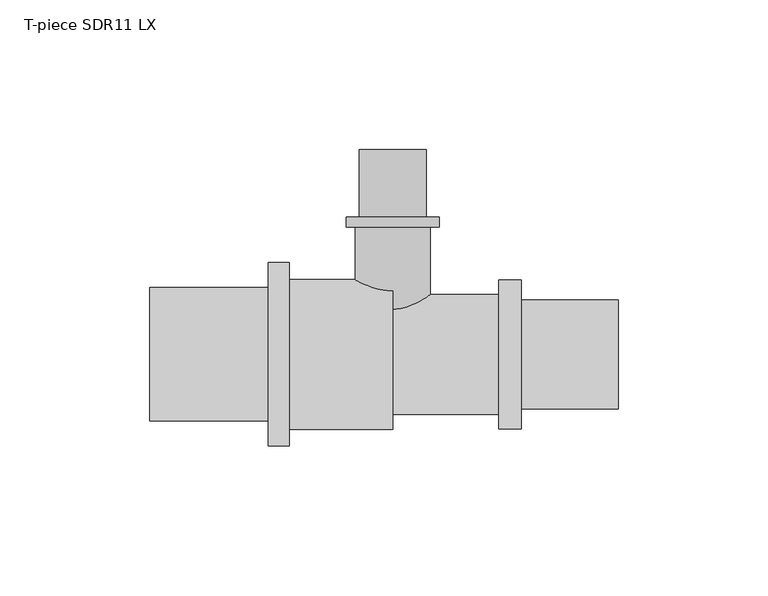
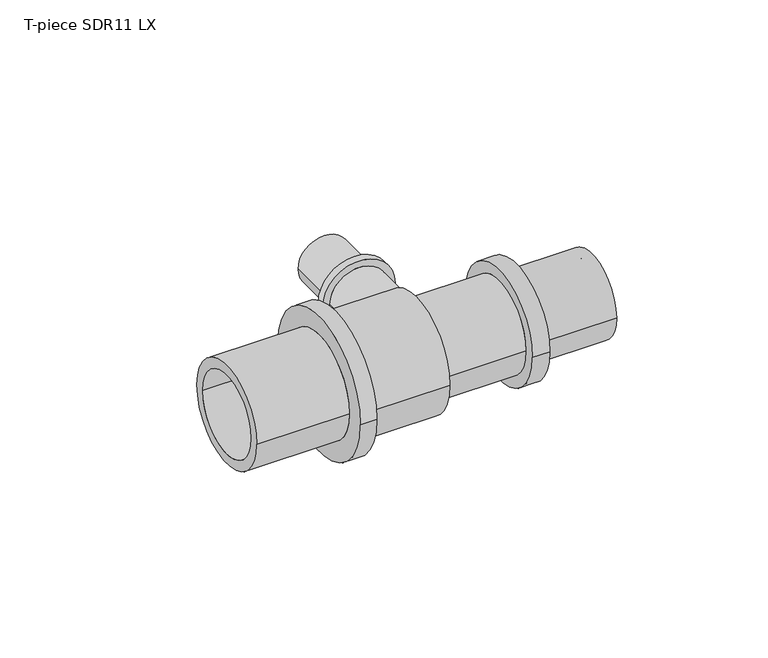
"""IFC4 building model written with IfcOpenShell, lengths in millimetres: pipe fitting geometry, T-piece SDR11 LX : T-piece LX SDR11 LX."""

from ifc_helpers import new_model, si_unit, point, frame, origin, place, context, project, spatial, polyline, circle_curve, ellipse_curve, trimmed, source, transform, mapped, element, save
from ifc_brep_helpers import plane_surface, cylinder_surface, revolved_surface, advanced_brep


def t_piece_sdr11_lx_75e13a52(model_context):
    return source(origin(), model_context, "Body", "AdvancedBrep", [
        advanced_brep(
        [(12.5, 0.9808737, 0.0), (-12.5, 0.9808737, 0.0), (-12.5, 42.5, 0.0), (12.5, 42.5, 0.0), (8.9, 68.5, 0.0), (-8.9, 68.5, 0.0), (-8.9, 0.0, 0.0), (8.9, 0.0, 0.0), (11.15, 45.9, 0.0), (-11.15, 45.9, 0.0), (-11.15, 68.5, 0.0), (11.15, 68.5, 0.0), (15.5, 42.5, 0.0), (-15.5, 42.5, 0.0), (-15.5, 45.9, 0.0), (15.5, 45.9, 0.0)],
        [
            (0, 1, circle_curve(frame((0.0, 0.9808737, 0.0), z_axis=(0.0, 1.0, 0.0), x_axis=(-1.0, 0.0, 0.0)), 12.5)),
            (1, 2),
            (2, 3, circle_curve(frame((0.0, 42.5, 0.0), z_axis=(0.0, -1.0, 0.0), x_axis=(-1.0, 0.0, 0.0)), 12.5)),
            (3, 0),
            (4, 5, circle_curve(frame((0.0, 68.5, 0.0), z_axis=(0.0, 1.0, 0.0), x_axis=(-1.0, 0.0, 0.0)), 8.9)),
            (5, 6),
            (6, 7, circle_curve(frame((0.0, 0.0, 0.0), z_axis=(0.0, -1.0, 0.0), x_axis=(-1.0, 0.0, 0.0)), 8.9)),
            (7, 4),
            (8, 9, circle_curve(frame((0.0, 45.9, 0.0), z_axis=(0.0, 1.0, 0.0), x_axis=(-1.0, 0.0, 0.0)), 11.15)),
            (9, 10),
            (10, 11, circle_curve(frame((0.0, 68.5, 0.0), z_axis=(0.0, -1.0, 0.0), x_axis=(-1.0, 0.0, 0.0)), 11.15)),
            (11, 8),
            (12, 13, circle_curve(frame((0.0, 42.5, 0.0), z_axis=(0.0, 1.0, 0.0), x_axis=(-1.0, 0.0, 0.0)), 15.5)),
            (13, 14),
            (14, 15, circle_curve(frame((0.0, 45.9, 0.0), z_axis=(0.0, -1.0, 0.0), x_axis=(-1.0, 0.0, 0.0)), 15.5)),
            (15, 12),
            (12, 13, circle_curve(frame((0.0, 42.5, 0.0), z_axis=(0.0, -1.0, 0.0), x_axis=(1.0, 0.0, 0.0)), 15.5)),
            (2, 3, circle_curve(frame((0.0, 42.5, 0.0), z_axis=(0.0, 1.0, 0.0), x_axis=(1.0, 0.0, 0.0)), 12.5)),
            (1, 0, circle_curve(frame((0.0, 0.9808737, 0.0), z_axis=(0.0, 1.0, 0.0), x_axis=(1.0, 0.0, 0.0)), 12.5)),
            (5, 4, circle_curve(frame((0.0, 68.5, 0.0), z_axis=(0.0, 1.0, 0.0), x_axis=(1.0, 0.0, 0.0)), 8.9)),
            (7, 6, circle_curve(frame((0.0, 0.0, 0.0), z_axis=(0.0, -1.0, 0.0), x_axis=(1.0, 0.0, 0.0)), 8.9)),
            (10, 11, circle_curve(frame((0.0, 68.5, 0.0), z_axis=(0.0, 1.0, 0.0), x_axis=(1.0, 0.0, 0.0)), 11.15)),
            (9, 8, circle_curve(frame((0.0, 45.9, 0.0), z_axis=(0.0, 1.0, 0.0), x_axis=(1.0, 0.0, 0.0)), 11.15)),
            (14, 15, circle_curve(frame((0.0, 45.9, 0.0), z_axis=(0.0, 1.0, 0.0), x_axis=(1.0, 0.0, 0.0)), 15.5)),
            (6, 1, circle_curve(frame((-4.1462802, 24.5438821, 0.0), z_axis=(0.0, 0.0, -1.0), x_axis=(0.0, -1.0, 0.0)), 25.0)),
            (0, 7, circle_curve(frame((4.1462802, 24.5438821, 0.0), z_axis=(0.0, 0.0, -1.0), x_axis=(0.0, -1.0, 0.0)), 25.0)),
        ],
        [
            cylinder_surface(frame((0.0, 0.0, 0.0), z_axis=(0.0, -1.0, 0.0), x_axis=(-1.0, 0.0, 0.0)), 12.5),
            revolved_surface(polyline([(-8.9, 0.0, 0.0), (-8.9, 68.5, 0.0)]), (0.0, 0.0, 0.0), (0.0, -1.0, 0.0)),
            cylinder_surface(frame((0.0, 0.0, 0.0), z_axis=(0.0, -1.0, 0.0), x_axis=(-1.0, 0.0, 0.0)), 11.15),
            cylinder_surface(frame((0.0, 0.0, 0.0), z_axis=(0.0, -1.0, 0.0), x_axis=(-1.0, 0.0, 0.0)), 15.5),
            plane_surface(frame((0.0, 42.5, 0.0), z_axis=(0.0, -1.0, 0.0), x_axis=(1.0, 0.0, 0.0))),
            cylinder_surface(frame((0.0, 0.0, 0.0), z_axis=(0.0, -1.0, 0.0), x_axis=(1.0, 0.0, 0.0)), 12.5),
            revolved_surface(polyline([(8.9, 0.0, 0.0), (8.9, 68.5, 0.0)]), (0.0, 0.0, 0.0), (0.0, -1.0, 0.0)),
            plane_surface(frame((0.0, 68.5, 0.0), z_axis=(0.0, 1.0, 0.0), x_axis=(1.0, 0.0, 0.0))),
            cylinder_surface(frame((0.0, 0.0, 0.0), z_axis=(0.0, -1.0, 0.0), x_axis=(1.0, 0.0, 0.0)), 11.15),
            plane_surface(frame((0.0, 45.9, 0.0), z_axis=(0.0, 1.0, 0.0), x_axis=(1.0, 0.0, 0.0))),
            cylinder_surface(frame((0.0, 0.0, 0.0), z_axis=(0.0, -1.0, 0.0), x_axis=(1.0, 0.0, 0.0)), 15.5),
            revolved_surface(trimmed(ellipse_curve(frame((-4.1462802, 24.5438821, 0.0), z_axis=(0.0, 0.0, 1.0), x_axis=(0.0, -1.0, 0.0)), 25.0, 25.0), [point((-12.5, 0.9808737, 0.0))], [point((-8.9, 0.0, 0.0))], True, "CARTESIAN"), (0.0, 0.0, 0.0), (0.0, -1.0, 0.0)),
            revolved_surface(trimmed(ellipse_curve(frame((4.1462802, 24.5438821, 0.0), z_axis=(0.0, 0.0, -1.0), x_axis=(0.0, -1.0, 0.0)), 25.0, 25.0), [point((12.5, 0.9808737, 0.0))], [point((8.9, 0.0, 0.0))], True, "CARTESIAN"), (0.0, 0.0, 0.0), (0.0, -1.0, 0.0)),
        ],
        [
            (0, [[1, 2, 3, 4]]),
            (1, [[5, 6, 7, 8]]),
            (2, [[9, 10, 11, 12]]),
            (3, [[13, 14, 15, 16]]),
            (4, [[17, -13], [18, -3]]),
            (5, [[19, -4, -18, -2]]),
            (6, [[20, -8, 21, -6]]),
            (7, [[22, -11], [-20, -5]]),
            (8, [[23, -12, -22, -10]]),
            (9, [[24, -15], [-23, -9]]),
            (10, [[-17, -16, -24, -14]]),
            (11, [[-7, 25, -1, 26]]),
            (12, [[-21, -26, -19, -25]]),
        ],
    ),
        advanced_brep(
        [(35.5, 20.0, 0.0), (35.5, -20.0, 0.0), (0.0, -20.0, 0.0), (0.0, 20.0, 0.0), (0.0, 13.6, 0.0), (0.0, -13.6, 0.0), (75.4, -13.6, 0.0), (75.4, 13.6, 0.0), (75.4, 18.15, 0.0), (75.4, -18.15, 0.0), (43.0, -18.15, 0.0), (43.0, 18.15, 0.0), (43.0, 24.85, 0.0), (43.0, -24.85, 0.0), (35.5, -24.85, 0.0), (35.5, 24.85, 0.0)],
        [
            (0, 1, circle_curve(frame((35.5, 0.0, 0.0), z_axis=(-1.0, 0.0, 0.0), x_axis=(0.0, -1.0, 0.0)), 20.0)),
            (1, 2),
            (2, 3, circle_curve(frame((0.0, 0.0, 0.0), z_axis=(1.0, 0.0, 0.0), x_axis=(0.0, -1.0, 0.0)), 20.0)),
            (3, 0),
            (4, 5, circle_curve(frame((0.0, 0.0, 0.0), z_axis=(-1.0, 0.0, 0.0), x_axis=(0.0, -1.0, 0.0)), 13.6)),
            (5, 6),
            (6, 7, circle_curve(frame((75.4, 0.0, 0.0), z_axis=(1.0, 0.0, 0.0), x_axis=(0.0, -1.0, 0.0)), 13.6)),
            (7, 4),
            (8, 9, circle_curve(frame((75.4, 0.0, 0.0), z_axis=(-1.0, 0.0, 0.0), x_axis=(0.0, -1.0, 0.0)), 18.15)),
            (9, 10),
            (10, 11, circle_curve(frame((43.0, 0.0, 0.0), z_axis=(1.0, 0.0, 0.0), x_axis=(0.0, -1.0, 0.0)), 18.15)),
            (11, 8),
            (12, 13, circle_curve(frame((43.0, 0.0, 0.0), z_axis=(-1.0, 0.0, 0.0), x_axis=(0.0, -1.0, 0.0)), 24.85)),
            (13, 14),
            (14, 15, circle_curve(frame((35.5, 0.0, 0.0), z_axis=(1.0, 0.0, 0.0), x_axis=(0.0, -1.0, 0.0)), 24.85)),
            (15, 12),
            (14, 15, circle_curve(frame((35.5, 0.0, 0.0), z_axis=(-1.0, 0.0, 0.0), x_axis=(0.0, 1.0, 0.0)), 24.85)),
            (0, 1, circle_curve(frame((35.5, 0.0, 0.0), z_axis=(1.0, 0.0, 0.0), x_axis=(0.0, 1.0, 0.0)), 20.0)),
            (3, 2, circle_curve(frame((0.0, 0.0, 0.0), z_axis=(1.0, 0.0, 0.0), x_axis=(0.0, 1.0, 0.0)), 20.0)),
            (4, 5, circle_curve(frame((0.0, 0.0, 0.0), z_axis=(1.0, 0.0, 0.0), x_axis=(0.0, 1.0, 0.0)), 13.6)),
            (7, 6, circle_curve(frame((75.4, 0.0, 0.0), z_axis=(1.0, 0.0, 0.0), x_axis=(0.0, 1.0, 0.0)), 13.6)),
            (8, 9, circle_curve(frame((75.4, 0.0, 0.0), z_axis=(1.0, 0.0, 0.0), x_axis=(0.0, 1.0, 0.0)), 18.15)),
            (11, 10, circle_curve(frame((43.0, 0.0, 0.0), z_axis=(1.0, 0.0, 0.0), x_axis=(0.0, 1.0, 0.0)), 18.15)),
            (12, 13, circle_curve(frame((43.0, 0.0, 0.0), z_axis=(1.0, 0.0, 0.0), x_axis=(0.0, 1.0, 0.0)), 24.85)),
        ],
        [
            cylinder_surface(frame((0.0, 0.0, 0.0), z_axis=(1.0, 0.0, 0.0), x_axis=(0.0, -1.0, 0.0)), 20.0),
            revolved_surface(polyline([(75.4, -13.6, 0.0), (0.0, -13.6, 0.0)]), (0.0, 0.0, 0.0), (1.0, 0.0, 0.0)),
            cylinder_surface(frame((0.0, 0.0, 0.0), z_axis=(1.0, 0.0, 0.0), x_axis=(0.0, -1.0, 0.0)), 18.15),
            cylinder_surface(frame((0.0, 0.0, 0.0), z_axis=(1.0, 0.0, 0.0), x_axis=(0.0, -1.0, 0.0)), 24.85),
            plane_surface(frame((35.5, 0.0, 0.0), z_axis=(-1.0, 0.0, 0.0), x_axis=(0.0, 1.0, 0.0))),
            cylinder_surface(frame((0.0, 0.0, 0.0), z_axis=(1.0, 0.0, 0.0), x_axis=(0.0, 1.0, 0.0)), 20.0),
            plane_surface(frame((0.0, 0.0, 0.0), z_axis=(-1.0, 0.0, 0.0), x_axis=(0.0, 1.0, 0.0))),
            revolved_surface(polyline([(75.4, 13.6, 0.0), (0.0, 13.6, 0.0)]), (0.0, 0.0, 0.0), (1.0, 0.0, 0.0)),
            plane_surface(frame((75.4, 0.0, 0.0), z_axis=(1.0, 0.0, 0.0), x_axis=(0.0, 1.0, 0.0))),
            cylinder_surface(frame((0.0, 0.0, 0.0), z_axis=(1.0, 0.0, 0.0), x_axis=(0.0, 1.0, 0.0)), 18.15),
            plane_surface(frame((43.0, 0.0, 0.0), z_axis=(1.0, 0.0, 0.0), x_axis=(0.0, 1.0, 0.0))),
            cylinder_surface(frame((0.0, 0.0, 0.0), z_axis=(1.0, 0.0, 0.0), x_axis=(0.0, 1.0, 0.0)), 24.85),
        ],
        [
            (0, [[1, 2, 3, 4]]),
            (1, [[5, 6, 7, 8]]),
            (2, [[9, 10, 11, 12]]),
            (3, [[13, 14, 15, 16]]),
            (4, [[17, -15], [18, -1]]),
            (5, [[-18, -4, 19, -2]]),
            (6, [[-19, -3], [20, -5]]),
            (7, [[-20, -8, 21, -6]]),
            (8, [[22, -9], [-21, -7]]),
            (9, [[-22, -12, 23, -10]]),
            (10, [[24, -13], [-23, -11]]),
            (11, [[-24, -16, -17, -14]]),
        ],
    ),
        advanced_brep(
        [(0.0, 25.0, 0.0), (0.0, -25.0, 0.0), (-34.6, -25.0, 0.0), (-34.6, 25.0, 0.0), (-81.2, 17.9, 0.0), (-81.2, -17.9, 0.0), (0.0, -17.9, 0.0), (0.0, 17.9, 0.0), (-41.6, 22.3, 0.0), (-41.6, -22.3, 0.0), (-81.2, -22.3, 0.0), (-81.2, 22.3, 0.0), (-34.6, 30.65, 0.0), (-34.6, -30.65, 0.0), (-41.6, -30.65, 0.0), (-41.6, 30.65, 0.0)],
        [
            (0, 1, circle_curve(frame((0.0, 0.0, 0.0), z_axis=(-1.0, 0.0, 0.0), x_axis=(0.0, -1.0, 0.0)), 25.0)),
            (1, 2),
            (2, 3, circle_curve(frame((-34.6, 0.0, 0.0), z_axis=(1.0, 0.0, 0.0), x_axis=(0.0, -1.0, 0.0)), 25.0)),
            (3, 0),
            (4, 5, circle_curve(frame((-81.2, 0.0, 0.0), z_axis=(-1.0, 0.0, 0.0), x_axis=(0.0, -1.0, 0.0)), 17.9)),
            (5, 6),
            (6, 7, circle_curve(frame((0.0, 0.0, 0.0), z_axis=(1.0, 0.0, 0.0), x_axis=(0.0, -1.0, 0.0)), 17.9)),
            (7, 4),
            (8, 9, circle_curve(frame((-41.6, 0.0, 0.0), z_axis=(-1.0, 0.0, 0.0), x_axis=(0.0, -1.0, 0.0)), 22.3)),
            (9, 10),
            (10, 11, circle_curve(frame((-81.2, 0.0, 0.0), z_axis=(1.0, 0.0, 0.0), x_axis=(0.0, -1.0, 0.0)), 22.3)),
            (11, 8),
            (12, 13, circle_curve(frame((-34.6, 0.0, 0.0), z_axis=(-1.0, 0.0, 0.0), x_axis=(0.0, -1.0, 0.0)), 30.65)),
            (13, 14),
            (14, 15, circle_curve(frame((-41.6, 0.0, 0.0), z_axis=(1.0, 0.0, 0.0), x_axis=(0.0, -1.0, 0.0)), 30.65)),
            (15, 12),
            (12, 13, circle_curve(frame((-34.6, 0.0, 0.0), z_axis=(1.0, 0.0, 0.0), x_axis=(0.0, 1.0, 0.0)), 30.65)),
            (2, 3, circle_curve(frame((-34.6, 0.0, 0.0), z_axis=(-1.0, 0.0, 0.0), x_axis=(0.0, 1.0, 0.0)), 25.0)),
            (1, 0, circle_curve(frame((0.0, 0.0, 0.0), z_axis=(-1.0, 0.0, 0.0), x_axis=(0.0, 1.0, 0.0)), 25.0)),
            (6, 7, circle_curve(frame((0.0, 0.0, 0.0), z_axis=(-1.0, 0.0, 0.0), x_axis=(0.0, 1.0, 0.0)), 17.9)),
            (5, 4, circle_curve(frame((-81.2, 0.0, 0.0), z_axis=(-1.0, 0.0, 0.0), x_axis=(0.0, 1.0, 0.0)), 17.9)),
            (10, 11, circle_curve(frame((-81.2, 0.0, 0.0), z_axis=(-1.0, 0.0, 0.0), x_axis=(0.0, 1.0, 0.0)), 22.3)),
            (9, 8, circle_curve(frame((-41.6, 0.0, 0.0), z_axis=(-1.0, 0.0, 0.0), x_axis=(0.0, 1.0, 0.0)), 22.3)),
            (14, 15, circle_curve(frame((-41.6, 0.0, 0.0), z_axis=(-1.0, 0.0, 0.0), x_axis=(0.0, 1.0, 0.0)), 30.65)),
        ],
        [
            cylinder_surface(frame((0.0, 0.0, 0.0), z_axis=(1.0, 0.0, 0.0), x_axis=(0.0, -1.0, 0.0)), 25.0),
            revolved_surface(polyline([(0.0, -17.9, 0.0), (-81.2, -17.9, 0.0)]), (0.0, 0.0, 0.0), (1.0, 0.0, 0.0)),
            cylinder_surface(frame((0.0, 0.0, 0.0), z_axis=(1.0, 0.0, 0.0), x_axis=(0.0, -1.0, 0.0)), 22.3),
            cylinder_surface(frame((0.0, 0.0, 0.0), z_axis=(1.0, 0.0, 0.0), x_axis=(0.0, -1.0, 0.0)), 30.65),
            plane_surface(frame((-34.6, 0.0, 0.0), z_axis=(1.0, 0.0, 0.0), x_axis=(0.0, 1.0, 0.0))),
            cylinder_surface(frame((0.0, 0.0, 0.0), z_axis=(1.0, 0.0, 0.0), x_axis=(0.0, 1.0, 0.0)), 25.0),
            plane_surface(frame((0.0, 0.0, 0.0), z_axis=(1.0, 0.0, 0.0), x_axis=(0.0, 1.0, 0.0))),
            revolved_surface(polyline([(0.0, 17.9, 0.0), (-81.2, 17.9, 0.0)]), (0.0, 0.0, 0.0), (1.0, 0.0, 0.0)),
            plane_surface(frame((-81.2, 0.0, 0.0), z_axis=(-1.0, 0.0, 0.0), x_axis=(0.0, 1.0, 0.0))),
            cylinder_surface(frame((0.0, 0.0, 0.0), z_axis=(1.0, 0.0, 0.0), x_axis=(0.0, 1.0, 0.0)), 22.3),
            plane_surface(frame((-41.6, 0.0, 0.0), z_axis=(-1.0, 0.0, 0.0), x_axis=(0.0, 1.0, 0.0))),
            cylinder_surface(frame((0.0, 0.0, 0.0), z_axis=(1.0, 0.0, 0.0), x_axis=(0.0, 1.0, 0.0)), 30.65),
        ],
        [
            (0, [[1, 2, 3, 4]]),
            (1, [[5, 6, 7, 8]]),
            (2, [[9, 10, 11, 12]]),
            (3, [[13, 14, 15, 16]]),
            (4, [[17, -13], [18, -3]]),
            (5, [[19, -4, -18, -2]]),
            (6, [[-19, -1], [20, -7]]),
            (7, [[21, -8, -20, -6]]),
            (8, [[22, -11], [-21, -5]]),
            (9, [[23, -12, -22, -10]]),
            (10, [[24, -15], [-23, -9]]),
            (11, [[-17, -16, -24, -14]]),
        ],
    ),
    ])


if __name__ == "__main__":
    model = new_model("IFC4")
    model_context = context("Model", 3, world=origin())
    ifc_project = project(units=[si_unit("LENGTHUNIT", "METRE", prefix="MILLI")], contexts=[model_context])
    site = spatial("IfcSite", under=ifc_project)
    building = spatial("IfcBuilding", under=site)
    placement = place(None, origin())
    t_piece_sdr11_lx_shape = t_piece_sdr11_lx_75e13a52(model_context)
    element("IfcPipeFitting", 1, ObjectType="T-piece SDR11 LX : T-piece LX SDR11 LX", at=placement, inside=building, context=model_context, shape_type="MappedRepresentation", body=[
        mapped(t_piece_sdr11_lx_shape, transform((0.0, 0.0, 0.0), x_axis=(1.0, 0.0, 0.0), y_axis=(0.0, 1.0, 0.0), z_axis=(0.0, 0.0, 1.0))),
    ])
    save(model, "model.ifc")
